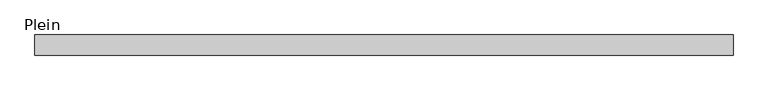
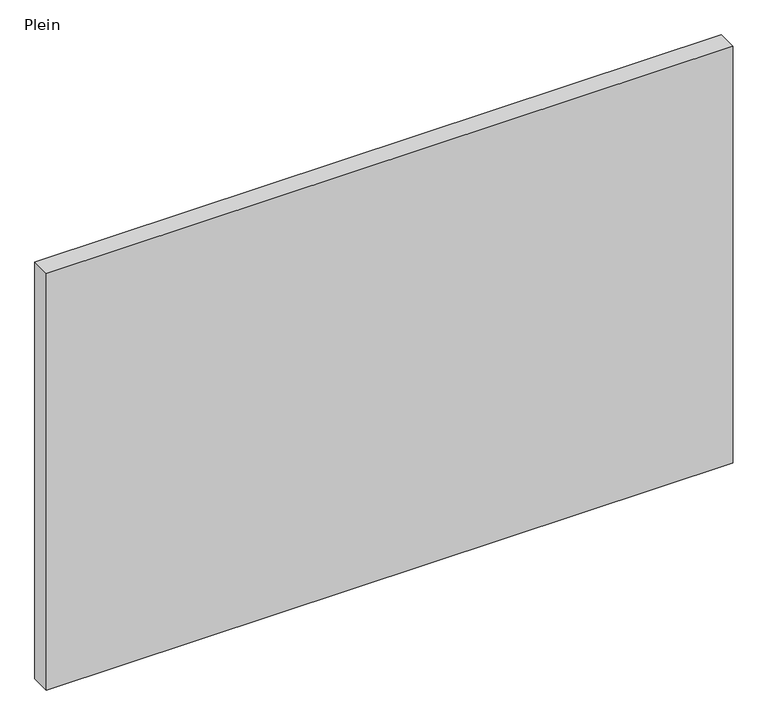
"""IFC4 building model written with IfcOpenShell, lengths in millimetres: plate geometry, Panneau système : Plein."""

from ifc_helpers import new_model, si_unit, origin, origin_with_axes, place, context, project, spatial, polyline, outline, extrude, source, transform, mapped, element, save


def plein_730cad8b(model_context):
    return source(origin(), model_context, "Body", "SweptSolid", [
        extrude(outline(polyline([(695.0, 5.0), (-695.0, 5.0), (-695.0, 45.0), (695.0, 45.0), (695.0, 5.0)])), origin_with_axes(), (0.0, 0.0, 1.0), 891.9604608),
    ])


if __name__ == "__main__":
    model = new_model("IFC4")
    model_context = context("Model", 3, world=origin())
    ifc_project = project(units=[si_unit("LENGTHUNIT", "METRE", prefix="MILLI")], contexts=[model_context])
    site = spatial("IfcSite", under=ifc_project)
    building = spatial("IfcBuilding", under=site)
    placement = place(None, origin())
    plein_shape = plein_730cad8b(model_context)
    element("IfcPlate", 1, ObjectType="Panneau système : Plein", at=placement, inside=building, context=model_context, shape_type="MappedRepresentation", body=[
        mapped(plein_shape, transform((0.0, 0.0, 0.0), x_axis=(1.0, 0.0, 0.0), y_axis=(0.0, 1.0, 0.0), z_axis=(0.0, 0.0, 1.0))),
    ])
    save(model, "model.ifc")
